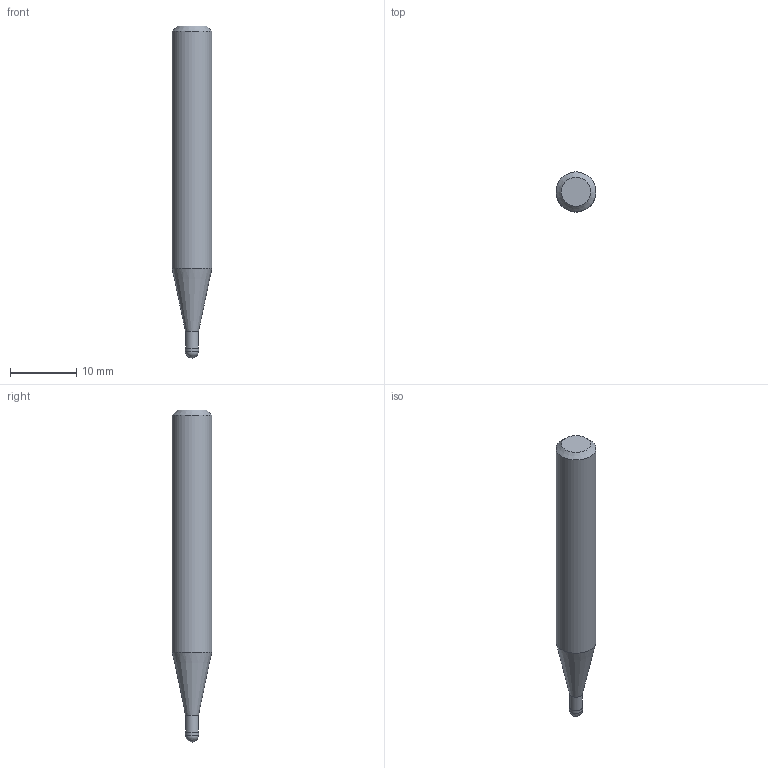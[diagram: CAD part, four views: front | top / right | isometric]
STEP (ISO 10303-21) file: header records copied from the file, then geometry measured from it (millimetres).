
FILE_DESCRIPTION((''),'2;1');
FILE_NAME('C:\Users\nsx150\AppData\Local\Temp\Mastercam 2021\3SYKECWX22\TEMP.step','2021-04-22T10:03:55',(''),(''),'STEP Write','Mastercam 2021 ... CNC Software, Inc.','');
FILE_SCHEMA(('AUTOMOTIVE_DESIGN'));
Length unit declared in the file: millimetre
Products named in the file (1): None
Bounding box: 6 x 6 x 50 mm (x, y, z)
Volume: 1164.7 mm3; surface area: 858.2 mm2
Topology: 2 solids, 2 shells, 9 faces, 14 edges, 8 vertices
Faces by surface type: plane 3, cylinder 3, cone 2, sphere 1
Full cylindrical faces by diameter (mm): 1.94 x1, 2 x1, 6 x1
Entity records: 211 total; most frequent: DIRECTION 36, CARTESIAN_POINT 25, AXIS2_PLACEMENT_3D 18, ORIENTED_EDGE 14, EDGE_LOOP 14, STYLED_ITEM 12, ADVANCED_FACE 9, FACE_BOUND 8
